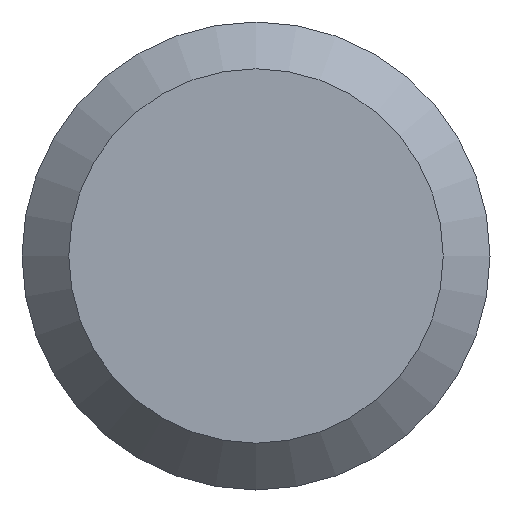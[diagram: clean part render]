
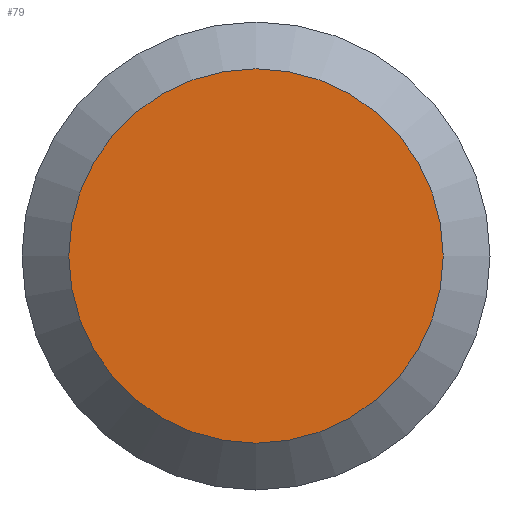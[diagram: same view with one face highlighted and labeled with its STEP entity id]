
A CAD part, left-side view. The second image highlights one B-rep face of the part: STEP entity #79.
In plain terms, the highlighted planar face has unit normal (-1, 0, 0).
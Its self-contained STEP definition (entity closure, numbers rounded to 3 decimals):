
#10 = AXIS2_PLACEMENT_3D ( 'NONE', #81, #190, #100 ) ;
#16 = AXIS2_PLACEMENT_3D ( 'NONE', #47, #113, #191 ) ;
#47 = CARTESIAN_POINT ( 'NONE',  ( 0., 7.938, 0. ) ) ;
#51 = CIRCLE ( 'NONE', #10, 6.35 ) ;
#54 = CARTESIAN_POINT ( 'NONE',  ( 0., 0., -6.35 ) ) ;
#68 = EDGE_CURVE ( 'NONE', #127, #127, #51, .T. ) ;
#79 = ADVANCED_FACE ( 'NONE', ( #141 ), #160, .F. ) ;
#81 = CARTESIAN_POINT ( 'NONE',  ( 0., 0., 0. ) ) ;
#94 = ORIENTED_EDGE ( 'NONE', *, *, #68, .T. ) ;
#100 = DIRECTION ( 'NONE',  ( 0., 0., -1. ) ) ;
#113 = DIRECTION ( 'NONE',  ( 1., 0., 0. ) ) ;
#117 = EDGE_LOOP ( 'NONE', ( #94 ) ) ;
#127 = VERTEX_POINT ( 'NONE', #54 ) ;
#141 = FACE_OUTER_BOUND ( 'NONE', #117, .T. ) ;
#160 = PLANE ( 'NONE',  #16 ) ;
#190 = DIRECTION ( 'NONE',  ( -1., 0., 0. ) ) ;
#191 = DIRECTION ( 'NONE',  ( 0., 0., -1. ) ) ;
